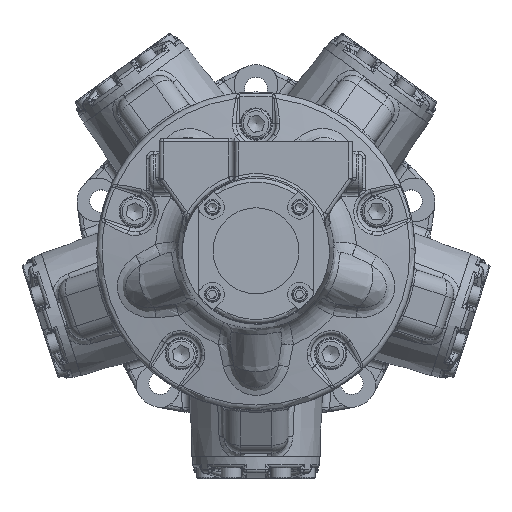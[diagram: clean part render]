
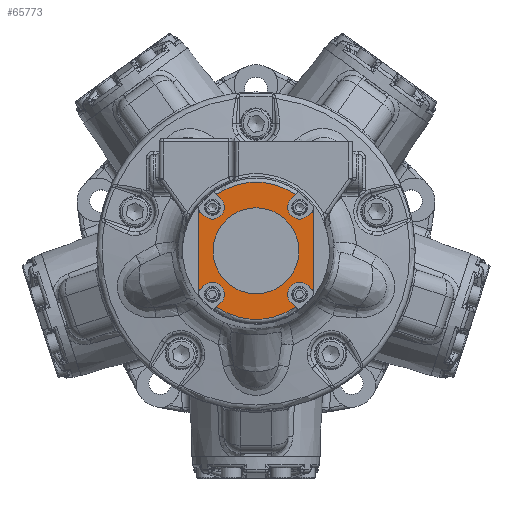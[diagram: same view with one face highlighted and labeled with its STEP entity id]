
A CAD part, top view. The second image highlights one B-rep face of the part: STEP entity #65773.
In plain terms, the highlighted planar face has unit normal (0, 0, 1).
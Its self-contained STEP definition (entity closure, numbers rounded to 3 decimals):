
#2825=FACE_BOUND('',#17797,.T.);
#3027=LINE('',#89357,#5924);
#3028=LINE('',#89359,#5925);
#3029=LINE('',#89363,#5926);
#3030=LINE('',#89367,#5927);
#3031=LINE('',#89371,#5928);
#3032=LINE('',#89375,#5929);
#3033=LINE('',#89379,#5930);
#3034=LINE('',#89383,#5931);
#3035=LINE('',#89387,#5932);
#3036=LINE('',#89391,#5933);
#5924=VECTOR('',#75494,10.);
#5925=VECTOR('',#75495,10.);
#5926=VECTOR('',#75498,10.);
#5927=VECTOR('',#75501,10.);
#5928=VECTOR('',#75504,10.);
#5929=VECTOR('',#75507,10.);
#5930=VECTOR('',#75510,10.);
#5931=VECTOR('',#75513,10.);
#5932=VECTOR('',#75516,10.);
#5933=VECTOR('',#75519,10.);
#13598=FACE_OUTER_BOUND('',#17796,.T.);
#17796=EDGE_LOOP('',(#40732,#40733,#40734,#40735,#40736,#40737,#40738,#40739,
#40740,#40741,#40742,#40743,#40744,#40745,#40746,#40747,#40748,#40749,#40750,
#40751));
#17797=EDGE_LOOP('',(#40752));
#22192=CIRCLE('',#69995,54.769);
#22194=CIRCLE('',#69999,34.29);
#22197=CIRCLE('',#70004,9.525);
#22198=CIRCLE('',#70005,54.769);
#22199=CIRCLE('',#70006,54.769);
#22200=CIRCLE('',#70007,9.525);
#22201=CIRCLE('',#70008,54.769);
#22202=CIRCLE('',#70009,9.525);
#22203=CIRCLE('',#70010,54.769);
#22204=CIRCLE('',#70011,54.769);
#22205=CIRCLE('',#70012,9.525);
#24858=VERTEX_POINT('',#89307);
#24861=VERTEX_POINT('',#89321);
#24863=VERTEX_POINT('',#89337);
#24868=VERTEX_POINT('',#89356);
#24869=VERTEX_POINT('',#89358);
#24870=VERTEX_POINT('',#89360);
#24871=VERTEX_POINT('',#89362);
#24872=VERTEX_POINT('',#89364);
#24873=VERTEX_POINT('',#89366);
#24874=VERTEX_POINT('',#89368);
#24875=VERTEX_POINT('',#89370);
#24876=VERTEX_POINT('',#89372);
#24877=VERTEX_POINT('',#89374);
#24878=VERTEX_POINT('',#89376);
#24879=VERTEX_POINT('',#89378);
#24880=VERTEX_POINT('',#89380);
#24881=VERTEX_POINT('',#89382);
#24882=VERTEX_POINT('',#89384);
#24883=VERTEX_POINT('',#89386);
#24884=VERTEX_POINT('',#89388);
#24885=VERTEX_POINT('',#89390);
#30789=EDGE_CURVE('',#24861,#24858,#22192,.T.);
#30791=EDGE_CURVE('',#24863,#24863,#22194,.T.);
#30797=EDGE_CURVE('',#24868,#24858,#3027,.T.);
#30798=EDGE_CURVE('',#24861,#24869,#3028,.T.);
#30799=EDGE_CURVE('',#24869,#24870,#22197,.T.);
#30800=EDGE_CURVE('',#24870,#24871,#3029,.T.);
#30801=EDGE_CURVE('',#24872,#24871,#22198,.T.);
#30802=EDGE_CURVE('',#24872,#24873,#3030,.T.);
#30803=EDGE_CURVE('',#24874,#24873,#22199,.T.);
#30804=EDGE_CURVE('',#24874,#24875,#3031,.T.);
#30805=EDGE_CURVE('',#24875,#24876,#22200,.T.);
#30806=EDGE_CURVE('',#24876,#24877,#3032,.T.);
#30807=EDGE_CURVE('',#24878,#24877,#22201,.T.);
#30808=EDGE_CURVE('',#24878,#24879,#3033,.T.);
#30809=EDGE_CURVE('',#24879,#24880,#22202,.T.);
#30810=EDGE_CURVE('',#24880,#24881,#3034,.T.);
#30811=EDGE_CURVE('',#24882,#24881,#22203,.T.);
#30812=EDGE_CURVE('',#24882,#24883,#3035,.T.);
#30813=EDGE_CURVE('',#24884,#24883,#22204,.T.);
#30814=EDGE_CURVE('',#24884,#24885,#3036,.T.);
#30815=EDGE_CURVE('',#24885,#24868,#22205,.T.);
#40732=ORIENTED_EDGE('',*,*,#30797,.T.);
#40733=ORIENTED_EDGE('',*,*,#30789,.F.);
#40734=ORIENTED_EDGE('',*,*,#30798,.T.);
#40735=ORIENTED_EDGE('',*,*,#30799,.T.);
#40736=ORIENTED_EDGE('',*,*,#30800,.T.);
#40737=ORIENTED_EDGE('',*,*,#30801,.F.);
#40738=ORIENTED_EDGE('',*,*,#30802,.T.);
#40739=ORIENTED_EDGE('',*,*,#30803,.F.);
#40740=ORIENTED_EDGE('',*,*,#30804,.T.);
#40741=ORIENTED_EDGE('',*,*,#30805,.T.);
#40742=ORIENTED_EDGE('',*,*,#30806,.T.);
#40743=ORIENTED_EDGE('',*,*,#30807,.F.);
#40744=ORIENTED_EDGE('',*,*,#30808,.T.);
#40745=ORIENTED_EDGE('',*,*,#30809,.T.);
#40746=ORIENTED_EDGE('',*,*,#30810,.T.);
#40747=ORIENTED_EDGE('',*,*,#30811,.F.);
#40748=ORIENTED_EDGE('',*,*,#30812,.T.);
#40749=ORIENTED_EDGE('',*,*,#30813,.F.);
#40750=ORIENTED_EDGE('',*,*,#30814,.T.);
#40751=ORIENTED_EDGE('',*,*,#30815,.T.);
#40752=ORIENTED_EDGE('',*,*,#30791,.T.);
#60586=PLANE('',#70003);
#65773=ADVANCED_FACE('',(#13598,#2825),#60586,.T.);
#69995=AXIS2_PLACEMENT_3D('',#89332,#75475,#75476);
#69999=AXIS2_PLACEMENT_3D('',#89338,#75483,#75484);
#70003=AXIS2_PLACEMENT_3D('',#89355,#75492,#75493);
#70004=AXIS2_PLACEMENT_3D('',#89361,#75496,#75497);
#70005=AXIS2_PLACEMENT_3D('',#89365,#75499,#75500);
#70006=AXIS2_PLACEMENT_3D('',#89369,#75502,#75503);
#70007=AXIS2_PLACEMENT_3D('',#89373,#75505,#75506);
#70008=AXIS2_PLACEMENT_3D('',#89377,#75508,#75509);
#70009=AXIS2_PLACEMENT_3D('',#89381,#75511,#75512);
#70010=AXIS2_PLACEMENT_3D('',#89385,#75514,#75515);
#70011=AXIS2_PLACEMENT_3D('',#89389,#75517,#75518);
#70012=AXIS2_PLACEMENT_3D('',#89392,#75520,#75521);
#75475=DIRECTION('center_axis',(0.,0.,
-1.));
#75476=DIRECTION('ref_axis',(0.,1.,0.));
#75483=DIRECTION('center_axis',(0.,0.,
-1.));
#75484=DIRECTION('ref_axis',(0.,-1.,0.));
#75492=DIRECTION('center_axis',(0.,0.,
1.));
#75493=DIRECTION('ref_axis',(0.,1.,0.));
#75494=DIRECTION('',(0.707,0.707,0.));
#75495=DIRECTION('',(0.707,-0.707,0.));
#75496=DIRECTION('center_axis',(0.,0.,
-1.));
#75497=DIRECTION('ref_axis',(-0.707,-0.707,0.));
#75498=DIRECTION('',(-0.707,0.707,0.));
#75499=DIRECTION('center_axis',(0.,0.,
-1.));
#75500=DIRECTION('ref_axis',(0.,1.,0.));
#75501=DIRECTION('',(0.,-1.,0.));
#75502=DIRECTION('center_axis',(0.,0.,
-1.));
#75503=DIRECTION('ref_axis',(0.,1.,0.));
#75504=DIRECTION('',(0.707,0.707,0.));
#75505=DIRECTION('center_axis',(0.,0.,
-1.));
#75506=DIRECTION('ref_axis',(0.707,-0.707,0.));
#75507=DIRECTION('',(-0.707,-0.707,0.));
#75508=DIRECTION('center_axis',(0.,0.,
-1.));
#75509=DIRECTION('ref_axis',(0.,1.,0.));
#75510=DIRECTION('',(-0.707,0.707,0.));
#75511=DIRECTION('center_axis',(0.,0.,
-1.));
#75512=DIRECTION('ref_axis',(0.707,0.707,0.));
#75513=DIRECTION('',(0.707,-0.707,0.));
#75514=DIRECTION('center_axis',(0.,0.,
-1.));
#75515=DIRECTION('ref_axis',(0.,1.,0.));
#75516=DIRECTION('',(0.,1.,0.));
#75517=DIRECTION('center_axis',(0.,0.,
-1.));
#75518=DIRECTION('ref_axis',(0.,1.,0.));
#75519=DIRECTION('',(-0.707,-0.707,0.));
#75520=DIRECTION('center_axis',(0.,0.,
-1.));
#75521=DIRECTION('ref_axis',(-0.707,0.707,0.));
#89307=CARTESIAN_POINT('',(31.402,44.872,295.807));
#89321=CARTESIAN_POINT('',(-31.402,44.872,295.807));
#89332=CARTESIAN_POINT('Origin',(0.,0.,
295.807));
#89337=CARTESIAN_POINT('',(0.,34.29,295.807));
#89338=CARTESIAN_POINT('Origin',(0.,0.,
295.807));
#89355=CARTESIAN_POINT('Origin',(0.,0.,
295.807));
#89356=CARTESIAN_POINT('',(28.063,41.534,295.807));
#89357=CARTESIAN_POINT('',(21.542,35.012,295.807));
#89358=CARTESIAN_POINT('',(-28.063,41.534,295.807));
#89359=CARTESIAN_POINT('',(-10.664,24.134,295.807));
#89360=CARTESIAN_POINT('',(-41.534,28.063,295.807));
#89361=CARTESIAN_POINT('Origin',(-34.798,34.798,295.807));
#89362=CARTESIAN_POINT('',(-44.872,31.402,295.807));
#89363=CARTESIAN_POINT('',(-35.012,21.542,295.807));
#89364=CARTESIAN_POINT('',(-46.038,29.668,295.807));
#89365=CARTESIAN_POINT('Origin',(0.,0.,
295.807));
#89366=CARTESIAN_POINT('',(-46.038,-29.668,295.807));
#89367=CARTESIAN_POINT('',(-46.038,-25.249,295.807));
#89368=CARTESIAN_POINT('',(-44.872,-31.402,295.807));
#89369=CARTESIAN_POINT('Origin',(0.,0.,
295.807));
#89370=CARTESIAN_POINT('',(-41.534,-28.063,295.807));
#89371=CARTESIAN_POINT('',(-24.134,-10.664,295.807));
#89372=CARTESIAN_POINT('',(-28.063,-41.534,295.807));
#89373=CARTESIAN_POINT('Origin',(-34.798,-34.798,295.807));
#89374=CARTESIAN_POINT('',(-31.402,-44.872,295.807));
#89375=CARTESIAN_POINT('',(-21.542,-35.012,295.807));
#89376=CARTESIAN_POINT('',(31.402,-44.872,295.807));
#89377=CARTESIAN_POINT('Origin',(0.,0.,
295.807));
#89378=CARTESIAN_POINT('',(28.063,-41.534,295.807));
#89379=CARTESIAN_POINT('',(10.664,-24.134,295.807));
#89380=CARTESIAN_POINT('',(41.534,-28.063,295.807));
#89381=CARTESIAN_POINT('Origin',(34.798,-34.798,295.807));
#89382=CARTESIAN_POINT('',(44.872,-31.402,295.807));
#89383=CARTESIAN_POINT('',(35.012,-21.542,295.807));
#89384=CARTESIAN_POINT('',(46.037,-29.668,295.807));
#89385=CARTESIAN_POINT('Origin',(0.,0.,
295.807));
#89386=CARTESIAN_POINT('',(46.038,29.668,295.807));
#89387=CARTESIAN_POINT('',(46.038,31.991,295.807));
#89388=CARTESIAN_POINT('',(44.872,31.402,295.807));
#89389=CARTESIAN_POINT('Origin',(0.,0.,
295.807));
#89390=CARTESIAN_POINT('',(41.534,28.063,295.807));
#89391=CARTESIAN_POINT('',(24.134,10.664,295.807));
#89392=CARTESIAN_POINT('Origin',(34.798,34.798,295.807));
